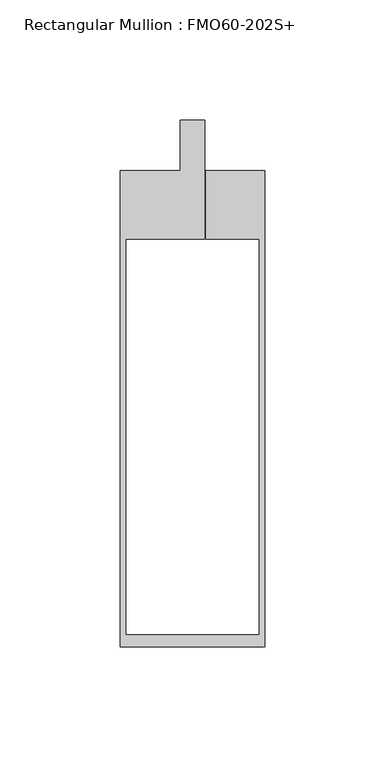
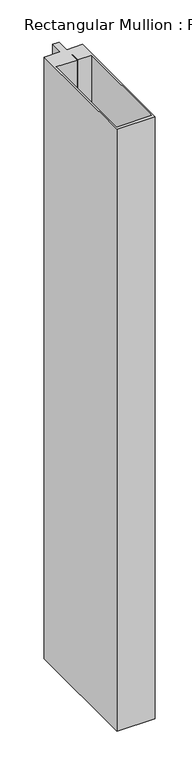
"""IFC4 building model written with IfcOpenShell, lengths in millimetres: member geometry, Rectangular Mullion : FMO60-202S+."""

from ifc_helpers import new_model, si_unit, origin, place, context, project, spatial, faceted_brep, source, transform, mapped, element, save


def rectangular_mullion_fmo60_202s_cc5a2b80(model_context):
    return source(origin(), model_context, "Body", "Brep", [
        faceted_brep([(-4.9998612, 0.1, 0.0), (-29.996122, 0.1, 0.0), (-29.996122, -197.9044778, 0.0), (30.0001388, -197.9044778, 0.0), (30.0001388, 0.1, 0.0), (5.4998612, 0.1, 0.0), (5.4998612, -28.3988805, 0.0), (27.803878, -28.3988805, 0.0), (27.803878, -192.9044778, 0.0), (-27.7943897, -192.9044778, 0.0), (-27.7943897, -28.4011195, 0.0), (4.9998612, -28.4011195, 0.0), (4.9998612, 21.0914962, 0.0), (-4.9998612, 21.0914866, 0.0), (-4.9998612, 0.1, -1000.0), (-4.9998612, 21.0914866, -1000.0), (4.9998612, 21.0914866, -1000.0), (4.9998612, -28.4011195, -1000.0), (-27.7943897, -28.4011195, -1000.0), (-27.7943897, -192.9044778, -1000.0), (27.803878, -192.9044778, -1000.0), (27.803878, -28.3988805, -1000.0), (5.4998612, -28.3988805, -1000.0), (5.4998612, 0.1, -1000.0), (30.0001388, 0.1, -1000.0), (30.0001388, -197.9044778, -1000.0), (-29.996122, -197.9044778, -1000.0), (-29.996122, 0.1, -1000.0)], [[[0, 1, 2, 3, 4, 5, 6, 7, 8, 9, 10, 11, 12, 13]], [[14, 15, 16, 17, 18, 19, 20, 21, 22, 23, 24, 25, 26, 27]], [[1, 0, 14, 27]], [[2, 1, 27, 26]], [[3, 2, 26, 25]], [[4, 3, 25, 24]], [[5, 4, 24, 23]], [[6, 5, 23, 22]], [[7, 6, 22, 21]], [[8, 7, 21, 20]], [[9, 8, 20, 19]], [[10, 9, 19, 18]], [[11, 10, 18, 17]], [[12, 11, 17, 16]], [[13, 12, 16, 15]], [[0, 13, 15, 14]]]),
    ])


if __name__ == "__main__":
    model = new_model("IFC4")
    model_context = context("Model", 3, world=origin())
    ifc_project = project(units=[si_unit("LENGTHUNIT", "METRE", prefix="MILLI")], contexts=[model_context])
    site = spatial("IfcSite", under=ifc_project)
    building = spatial("IfcBuilding", under=site)
    placement = place(None, origin())
    rectangular_mullion_fmo60_202s_shape = rectangular_mullion_fmo60_202s_cc5a2b80(model_context)
    element("IfcMember", 1, ObjectType="Rectangular Mullion : FMO60-202S+", at=placement, inside=building, context=model_context, shape_type="MappedRepresentation", body=[
        mapped(rectangular_mullion_fmo60_202s_shape, transform((0.0, 0.0, 0.0), x_axis=(1.0, 0.0, 0.0), y_axis=(0.0, 1.0, 0.0), z_axis=(0.0, 0.0, 1.0))),
    ])
    save(model, "model.ifc")
